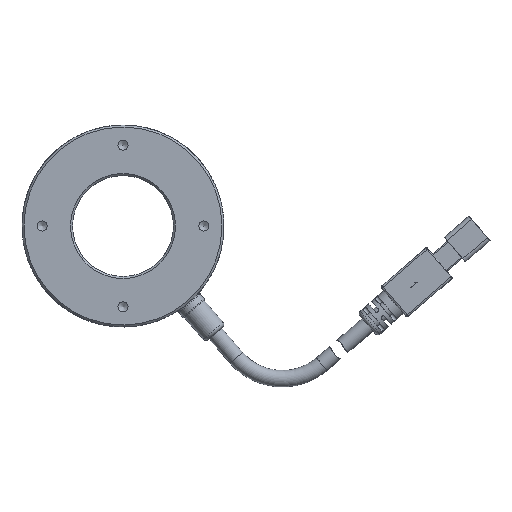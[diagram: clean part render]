
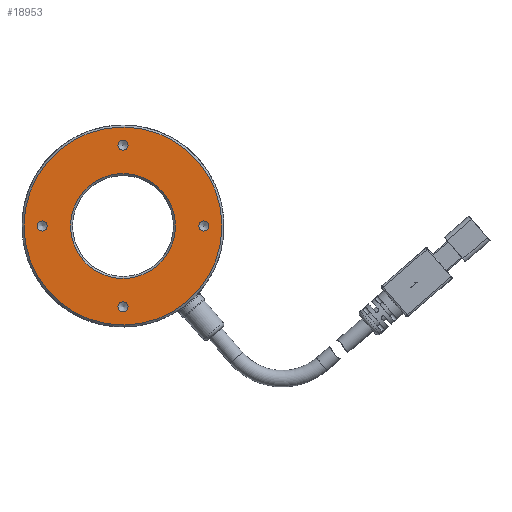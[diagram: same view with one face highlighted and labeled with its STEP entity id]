
A CAD part, front view. The second image highlights one B-rep face of the part: STEP entity #18953.
In plain terms, the highlighted planar face has unit normal (0, -1, 0).
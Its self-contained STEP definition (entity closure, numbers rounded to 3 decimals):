
#35 = DIRECTION ( 'NONE',  ( 0., 1., 0. ) ) ;
#345 = CARTESIAN_POINT ( 'NONE',  ( -20., 30.955, -1.25 ) ) ;
#649 = FACE_BOUND ( 'NONE', #17553, .T. ) ;
#688 = DIRECTION ( 'NONE',  ( 0., 0., -1. ) ) ;
#1259 = CIRCLE ( 'NONE', #20834, 1.25 ) ;
#1513 = CIRCLE ( 'NONE', #2354, 1.25 ) ;
#1927 = CARTESIAN_POINT ( 'NONE',  ( 0., 30.955, 0. ) ) ;
#1970 = ORIENTED_EDGE ( 'NONE', *, *, #15798, .F. ) ;
#2259 = AXIS2_PLACEMENT_3D ( 'NONE', #16297, #18096, #14775 ) ;
#2354 = AXIS2_PLACEMENT_3D ( 'NONE', #8417, #20526, #6774 ) ;
#3033 = EDGE_LOOP ( 'NONE', ( #21189 ) ) ;
#3254 = AXIS2_PLACEMENT_3D ( 'NONE', #15928, #5769, #14474 ) ;
#3335 = VERTEX_POINT ( 'NONE', #5657 ) ;
#3519 = ORIENTED_EDGE ( 'NONE', *, *, #15604, .F. ) ;
#3563 = VERTEX_POINT ( 'NONE', #10644 ) ;
#3594 = FACE_OUTER_BOUND ( 'NONE', #5014, .T. ) ;
#3846 = VERTEX_POINT ( 'NONE', #7400 ) ;
#4325 = AXIS2_PLACEMENT_3D ( 'NONE', #17413, #19293, #20971 ) ;
#4929 = ORIENTED_EDGE ( 'NONE', *, *, #7427, .F. ) ;
#5014 = EDGE_LOOP ( 'NONE', ( #11346 ) ) ;
#5253 = CIRCLE ( 'NONE', #19402, 13. ) ;
#5597 = CARTESIAN_POINT ( 'NONE',  ( 20., 30.955, -1.25 ) ) ;
#5657 = CARTESIAN_POINT ( 'NONE',  ( 0., 30.955, 13. ) ) ;
#5769 = DIRECTION ( 'NONE',  ( 0., 1., 0. ) ) ;
#5897 = DIRECTION ( 'NONE',  ( 0., -1., 0. ) ) ;
#5975 = DIRECTION ( 'NONE',  ( 0., -1., 0. ) ) ;
#6520 = FACE_BOUND ( 'NONE', #11653, .T. ) ;
#6774 = DIRECTION ( 'NONE',  ( 0., 0., -1. ) ) ;
#7277 = PLANE ( 'NONE',  #3254 ) ;
#7400 = CARTESIAN_POINT ( 'NONE',  ( 0., 30.955, 18.75 ) ) ;
#7427 = EDGE_CURVE ( 'NONE', #13612, #13612, #1513, .T. ) ;
#7703 = CARTESIAN_POINT ( 'NONE',  ( 0., 30.955, -20. ) ) ;
#7955 = CIRCLE ( 'NONE', #8054, 1.25 ) ;
#8054 = AXIS2_PLACEMENT_3D ( 'NONE', #7703, #5975, #688 ) ;
#8417 = CARTESIAN_POINT ( 'NONE',  ( 20., 30.955, 0. ) ) ;
#8678 = FACE_BOUND ( 'NONE', #14618, .T. ) ;
#9027 = EDGE_CURVE ( 'NONE', #3335, #3335, #5253, .T. ) ;
#9045 = CARTESIAN_POINT ( 'NONE',  ( 0., 30.955, 24.5 ) ) ;
#9293 = DIRECTION ( 'NONE',  ( 0., 0., -1. ) ) ;
#9754 = FACE_BOUND ( 'NONE', #16020, .T. ) ;
#9830 = CIRCLE ( 'NONE', #2259, 24.5 ) ;
#9876 = EDGE_CURVE ( 'NONE', #11626, #11626, #9830, .T. ) ;
#10644 = CARTESIAN_POINT ( 'NONE',  ( 0., 30.955, -21.25 ) ) ;
#11346 = ORIENTED_EDGE ( 'NONE', *, *, #9876, .T. ) ;
#11626 = VERTEX_POINT ( 'NONE', #9045 ) ;
#11653 = EDGE_LOOP ( 'NONE', ( #1970 ) ) ;
#12003 = DIRECTION ( 'NONE',  ( 0., 0., 1. ) ) ;
#13612 = VERTEX_POINT ( 'NONE', #5597 ) ;
#13808 = VERTEX_POINT ( 'NONE', #345 ) ;
#14474 = DIRECTION ( 'NONE',  ( 0., 0., 1. ) ) ;
#14618 = EDGE_LOOP ( 'NONE', ( #19684 ) ) ;
#14775 = DIRECTION ( 'NONE',  ( 0., 0., 1. ) ) ;
#15604 = EDGE_CURVE ( 'NONE', #3846, #3846, #22338, .T. ) ;
#15798 = EDGE_CURVE ( 'NONE', #3563, #3563, #7955, .T. ) ;
#15821 = EDGE_CURVE ( 'NONE', #13808, #13808, #1259, .T. ) ;
#15928 = CARTESIAN_POINT ( 'NONE',  ( -25., 30.955, 0. ) ) ;
#16020 = EDGE_LOOP ( 'NONE', ( #3519 ) ) ;
#16297 = CARTESIAN_POINT ( 'NONE',  ( 0., 30.955, 0. ) ) ;
#17413 = CARTESIAN_POINT ( 'NONE',  ( 0., 30.955, 20. ) ) ;
#17553 = EDGE_LOOP ( 'NONE', ( #4929 ) ) ;
#18096 = DIRECTION ( 'NONE',  ( 0., -1., 0. ) ) ;
#18953 = ADVANCED_FACE ( 'NONE', ( #9754, #21138, #6520, #649, #3594, #8678 ), #7277, .F. ) ;
#19293 = DIRECTION ( 'NONE',  ( 0., -1., 0. ) ) ;
#19402 = AXIS2_PLACEMENT_3D ( 'NONE', #1927, #35, #12003 ) ;
#19661 = CARTESIAN_POINT ( 'NONE',  ( -20., 30.955, 0. ) ) ;
#19684 = ORIENTED_EDGE ( 'NONE', *, *, #9027, .T. ) ;
#20526 = DIRECTION ( 'NONE',  ( 0., -1., 0. ) ) ;
#20834 = AXIS2_PLACEMENT_3D ( 'NONE', #19661, #5897, #9293 ) ;
#20971 = DIRECTION ( 'NONE',  ( 0., 0., -1. ) ) ;
#21138 = FACE_BOUND ( 'NONE', #3033, .T. ) ;
#21189 = ORIENTED_EDGE ( 'NONE', *, *, #15821, .F. ) ;
#22338 = CIRCLE ( 'NONE', #4325, 1.25 ) ;
